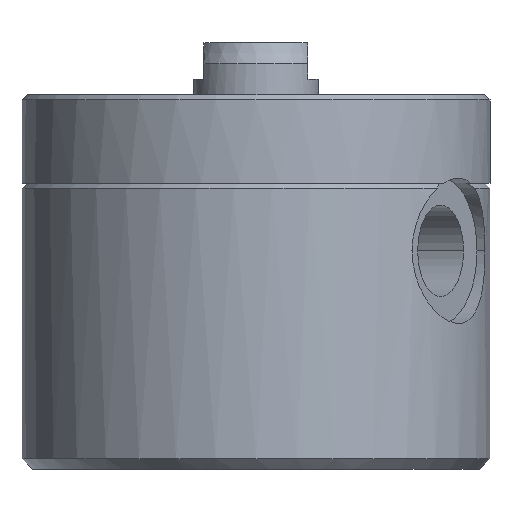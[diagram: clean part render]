
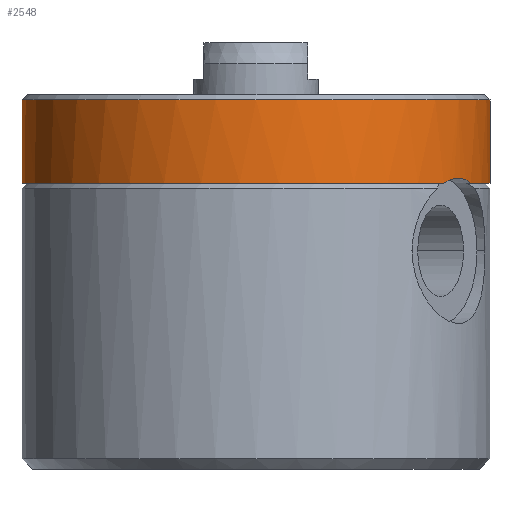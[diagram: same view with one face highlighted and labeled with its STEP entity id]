
A CAD part, front view. The second image highlights one B-rep face of the part: STEP entity #2548.
In plain terms, the highlighted cylindrical face has radius 22.5 mm (diameter 45 mm), a partial arc.
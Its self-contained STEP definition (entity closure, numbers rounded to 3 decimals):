
#56 = EDGE_LOOP ( 'NONE', ( #1713, #347, #2373, #2251, #330, #2097 ) ) ;
#91 = DIRECTION ( 'NONE',  ( 0., 0., -1. ) ) ;
#113 = CARTESIAN_POINT ( 'NONE',  ( -22.5, 0., 36. ) ) ;
#126 = DIRECTION ( 'NONE',  ( -1., 0., 0. ) ) ;
#159 = CARTESIAN_POINT ( 'NONE',  ( 0., 0., 36. ) ) ;
#286 = DIRECTION ( 'NONE',  ( 0., 0., -1. ) ) ;
#330 = ORIENTED_EDGE ( 'NONE', *, *, #2935, .F. ) ;
#347 = ORIENTED_EDGE ( 'NONE', *, *, #2888, .T. ) ;
#504 = VERTEX_POINT ( 'NONE', #1408 ) ;
#568 = CARTESIAN_POINT ( 'NONE',  ( 20.654, -8.925, 27.5 ) ) ;
#664 = VERTEX_POINT ( 'NONE', #1660 ) ;
#1056 = CARTESIAN_POINT ( 'NONE',  ( 22.5, 0., 27.5 ) ) ;
#1077 = CARTESIAN_POINT ( 'NONE',  ( 22.5, 0., 36. ) ) ;
#1163 = AXIS2_PLACEMENT_3D ( 'NONE', #2353, #2348, #2340 ) ;
#1172 = AXIS2_PLACEMENT_3D ( 'NONE', #2668, #2662, #2656 ) ;
#1175 = VERTEX_POINT ( 'NONE', #3187 ) ;
#1213 = AXIS2_PLACEMENT_3D ( 'NONE', #2828, #2823, #2816 ) ;
#1304 = EDGE_CURVE ( 'NONE', #3006, #504, #2792, .T. ) ;
#1373 = EDGE_CURVE ( 'NONE', #664, #3181, #2732, .T. ) ;
#1408 = CARTESIAN_POINT ( 'NONE',  ( -22.5, 0., 27.5 ) ) ;
#1480 = AXIS2_PLACEMENT_3D ( 'NONE', #159, #91, #126 ) ;
#1621 = CIRCLE ( 'NONE', #1163, 22.5 ) ;
#1630 = CIRCLE ( 'NONE', #1172, 22.5 ) ;
#1660 = CARTESIAN_POINT ( 'NONE',  ( 22.5, 0., 35.5 ) ) ;
#1669 = CIRCLE ( 'NONE', #1213, 22.5 ) ;
#1713 = ORIENTED_EDGE ( 'NONE', *, *, #1373, .F. ) ;
#1964 = CYLINDRICAL_SURFACE ( 'NONE', #1480, 22.5 ) ;
#2001 = FACE_OUTER_BOUND ( 'NONE', #56, .T. ) ;
#2097 = ORIENTED_EDGE ( 'NONE', *, *, #2940, .T. ) ;
#2115 = CARTESIAN_POINT ( 'NONE',  ( -22.5, 0., 35.5 ) ) ;
#2226 = B_SPLINE_CURVE_WITH_KNOTS ( 'NONE', 3,
 ( #2508, #2546, #2467, #2458, #2449, #2445, #2436, #2429, #2419, #2414, #2406, #2396 ),
 .UNSPECIFIED., .F., .F.,
 ( 4, 2, 2, 2, 2, 4 ),
 ( 0., 0.001, 0.002, 0.003, 0.004, 0.005 ),
 .UNSPECIFIED. ) ;
#2251 = ORIENTED_EDGE ( 'NONE', *, *, #2912, .T. ) ;
#2340 = DIRECTION ( 'NONE',  ( 1., 0., 0. ) ) ;
#2348 = DIRECTION ( 'NONE',  ( 0., 0., 1. ) ) ;
#2353 = CARTESIAN_POINT ( 'NONE',  ( 0., 0., 27.5 ) ) ;
#2373 = ORIENTED_EDGE ( 'NONE', *, *, #1304, .T. ) ;
#2396 = CARTESIAN_POINT ( 'NONE',  ( 18.056, -13.425, 27.5 ) ) ;
#2406 = CARTESIAN_POINT ( 'NONE',  ( 18.305, -13.09, 27.665 ) ) ;
#2414 = CARTESIAN_POINT ( 'NONE',  ( 18.554, -12.736, 27.791 ) ) ;
#2419 = CARTESIAN_POINT ( 'NONE',  ( 19.033, -12.008, 27.958 ) ) ;
#2429 = CARTESIAN_POINT ( 'NONE',  ( 19.264, -11.634, 28. ) ) ;
#2436 = CARTESIAN_POINT ( 'NONE',  ( 19.597, -11.056, 28. ) ) ;
#2445 = CARTESIAN_POINT ( 'NONE',  ( 19.707, -10.86, 27.989 ) ) ;
#2449 = CARTESIAN_POINT ( 'NONE',  ( 19.917, -10.47, 27.947 ) ) ;
#2458 = CARTESIAN_POINT ( 'NONE',  ( 20.018, -10.275, 27.915 ) ) ;
#2467 = CARTESIAN_POINT ( 'NONE',  ( 20.31, -9.693, 27.789 ) ) ;
#2508 = CARTESIAN_POINT ( 'NONE',  ( 20.654, -8.925, 27.5 ) ) ;
#2546 = CARTESIAN_POINT ( 'NONE',  ( 20.489, -9.307, 27.665 ) ) ;
#2548 = ADVANCED_FACE ( 'NONE', ( #2001 ), #1964, .T. ) ;
#2656 = DIRECTION ( 'NONE',  ( 1., 0., 0. ) ) ;
#2662 = DIRECTION ( 'NONE',  ( 0., 0., 1. ) ) ;
#2668 = CARTESIAN_POINT ( 'NONE',  ( 0., 0., 27.5 ) ) ;
#2714 = VECTOR ( 'NONE', #2995, 1000. ) ;
#2732 = LINE ( 'NONE', #1077, #2714 ) ;
#2777 = VECTOR ( 'NONE', #286, 1000. ) ;
#2792 = LINE ( 'NONE', #113, #2777 ) ;
#2816 = DIRECTION ( 'NONE',  ( 1., 0., 0. ) ) ;
#2823 = DIRECTION ( 'NONE',  ( 0., 0., -1. ) ) ;
#2828 = CARTESIAN_POINT ( 'NONE',  ( 0., 0., 35.5 ) ) ;
#2888 = EDGE_CURVE ( 'NONE', #664, #3006, #1669, .T. ) ;
#2912 = EDGE_CURVE ( 'NONE', #504, #1175, #1630, .T. ) ;
#2935 = EDGE_CURVE ( 'NONE', #3312, #1175, #2226, .T. ) ;
#2940 = EDGE_CURVE ( 'NONE', #3312, #3181, #1621, .T. ) ;
#2995 = DIRECTION ( 'NONE',  ( 0., 0., -1. ) ) ;
#3006 = VERTEX_POINT ( 'NONE', #2115 ) ;
#3181 = VERTEX_POINT ( 'NONE', #1056 ) ;
#3187 = CARTESIAN_POINT ( 'NONE',  ( 18.056, -13.425, 27.5 ) ) ;
#3312 = VERTEX_POINT ( 'NONE', #568 ) ;
